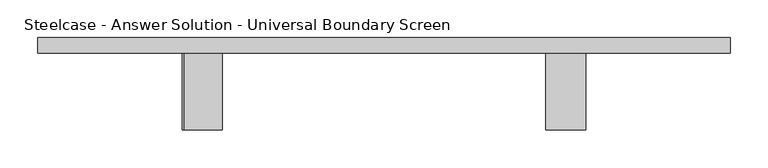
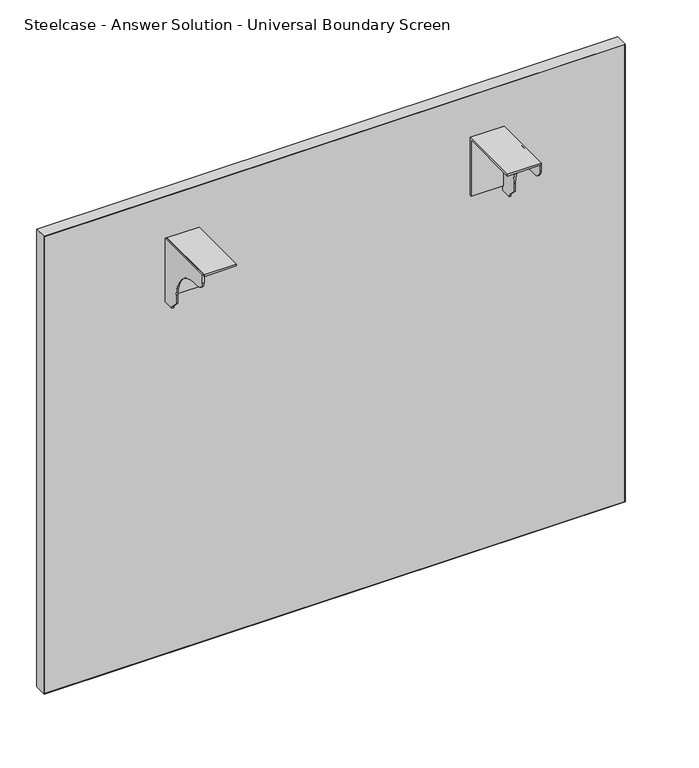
"""IFC4 building model written with IfcOpenShell, lengths in millimetres: furniture geometry, Steelcase - Answer Solution - Universal Boundary Screen : 30H x 36W."""

from ifc_helpers import new_model, si_unit, point, frame, frame_2d, origin, place, context, project, spatial, polyline, circle_curve, trimmed, segment, composite_curve, outline, extrude, source, transform, mapped, element, save


def steelcase_answer_solution_universal_boundary_screen_872ce9ad(model_context):
    return source(origin(), model_context, "Body", "SweptSolid", [
        extrude(outline(polyline([(-103.1670434, 689.3558876), (-103.1670434, 692.1499758), (-1.5668826, 692.1499758), (-1.5668826, 595.5029317), (-4.1079736, 595.5029317), (-4.1079736, 689.3558876), (-103.1670434, 689.3558876)])), frame((743.4336711, 0.0, 0.0), z_axis=(1.0, 0.0, 0.0), x_axis=(0.0, 1.0, 0.0)), (0.0, 0.0, 1.0), 53.3444116),
        extrude(outline(composite_curve([segment(polyline([(-103.1670434, 679.2814802), (-103.1670434, 692.1499758), (-1.5668826, 692.1499758), (-1.5668826, 586.9634093), (-19.8232934, 586.9634093), (-19.8232934, 589.7574248), (-32.0458032, 601.9799346), (-32.0458032, 615.7814802)]), True, "CONTINUOUS"), segment(trimmed(circle_curve(frame_2d((-82.8458032, 615.7814802)), 50.8), [point((-32.0458032, 615.7814802))], [point((-82.8458032, 666.5814802))], True, "CARTESIAN"), True, "CONTINUOUS"), segment(polyline([(-82.8458032, 666.5814802), (-90.4670434, 666.5814802)]), True, "CONTINUOUS"), segment(trimmed(circle_curve(frame_2d((-90.4670434, 679.2814802)), 12.7), [point((-90.4670434, 666.5814802))], [point((-103.1670434, 679.2814802))], False, "CARTESIAN"), True, "CONTINUOUS")], self_intersect=False)), frame((794.2328959, 0.0, 0.0), z_axis=(1.0, 0.0, 0.0), x_axis=(0.0, 1.0, 0.0)), (0.0, 0.0, 1.0), 2.5451868),
        extrude(outline(polyline([(-103.1670434, 689.3558876), (-103.1670434, 692.1499758), (-1.5668826, 692.1499758), (-1.5668826, 595.5029317), (-4.1079736, 595.5029317), (-4.1079736, 689.3558876), (-103.1670434, 689.3558876)])), frame((265.9232694, 0.0, 0.0), z_axis=(1.0, 0.0, 0.0), x_axis=(0.0, 1.0, 0.0)), (0.0, 0.0, 1.0), 50.7992249),
        extrude(outline(composite_curve([segment(polyline([(-103.1670434, 679.2814802), (-103.1670434, 692.1499758), (-1.5668826, 692.1499758), (-1.5668826, 586.9634093), (-19.8232934, 586.9634093), (-19.8232934, 589.7574248), (-32.0458032, 601.9799346), (-32.0458032, 615.7814802)]), True, "CONTINUOUS"), segment(trimmed(circle_curve(frame_2d((-82.8458032, 615.7814802)), 50.8), [point((-32.0458032, 615.7814802))], [point((-82.8458032, 666.5814802))], True, "CARTESIAN"), True, "CONTINUOUS"), segment(polyline([(-82.8458032, 666.5814802), (-90.4670434, 666.5814802)]), True, "CONTINUOUS"), segment(trimmed(circle_curve(frame_2d((-90.4670434, 679.2814802)), 12.7), [point((-90.4670434, 666.5814802))], [point((-103.1670434, 679.2814802))], False, "CARTESIAN"), True, "CONTINUOUS")], self_intersect=False)), frame((263.3780827, 0.0, 0.0), z_axis=(1.0, 0.0, 0.0), x_axis=(0.0, 1.0, 0.0)), (0.0, 0.0, 1.0), 2.5451868),
        extrude(outline(polyline([(73.8706578, 18.9055112), (986.2855076, 18.9055112), (986.2855076, -1.5668826), (73.8706578, -1.5668826), (73.8706578, 18.9055112)])), frame((0.0, 0.0, 1.016), z_axis=(0.0, 0.0, 1.0), x_axis=(1.0, 0.0, 0.0)), (0.0, 0.0, 1.0), 759.9914249),
        extrude(outline(polyline([(762.0, 987.2780827), (762.0, 72.8780827), (0.0, 72.8780827), (0.0, 987.2780827), (762.0, 987.2780827)]), holes=[polyline([(761.0074249, 986.2855076), (1.016, 986.2855076), (1.016, 73.8706578), (761.0074249, 73.8706578), (761.0074249, 986.2855076)])]), frame((0.0, -1.5668826, 0.0), z_axis=(0.0, 1.0, 0.0), x_axis=(0.0, 0.0, 1.0)), (0.0, 0.0, 1.0), 20.4723938),
    ])


if __name__ == "__main__":
    model = new_model("IFC4")
    model_context = context("Model", 3, world=origin())
    ifc_project = project(units=[si_unit("LENGTHUNIT", "METRE", prefix="MILLI")], contexts=[model_context])
    site = spatial("IfcSite", under=ifc_project)
    building = spatial("IfcBuilding", under=site)
    placement = place(None, origin())
    steelcase_answer_solution_universal_boundary_screen_shape = steelcase_answer_solution_universal_boundary_screen_872ce9ad(model_context)
    element("IfcFurniture", 1, ObjectType="Steelcase - Answer Solution - Universal Boundary Screen : 30H x 36W", at=placement, inside=building, context=model_context, shape_type="MappedRepresentation", body=[
        mapped(steelcase_answer_solution_universal_boundary_screen_shape, transform((0.0, 0.0, 0.0), x_axis=(1.0, 0.0, 0.0), y_axis=(0.0, 1.0, 0.0), z_axis=(0.0, 0.0, 1.0))),
    ])
    save(model, "model.ifc")
